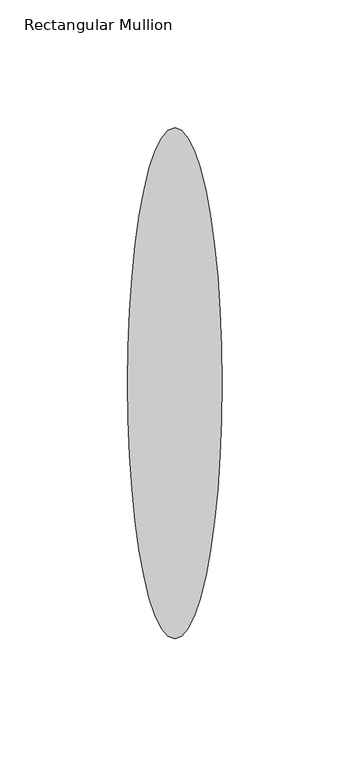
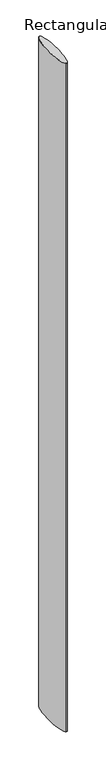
"""IFC4 building model written with IfcOpenShell, lengths in millimetres: member geometry, Rectangular Mullion : RSen_21_CWM_blade - 200 ellips - 0°_gen_duco projects."""

from ifc_helpers import new_model, si_unit, point, frame, origin, place, context, project, spatial, ellipse_curve, trimmed, source, transform, mapped, element, save
from ifc_brep_helpers import plane_surface, extruded_surface, advanced_brep


def rectangular_mullion_139a1767(model_context):
    return source(origin(), model_context, "Body", "AdvancedBrep", [
        advanced_brep(
        [(0.0, 13.0, 0.0), (0.0, 213.0, 0.0), (0.0, 13.0, -3000.0), (0.0, 213.0, -3000.0)],
        [
            (0, 1, ellipse_curve(frame((0.0, 113.0, 0.0), z_axis=(0.0, 0.0, 1.0), x_axis=(0.0, 1.0, 0.0)), 100.0, 18.5)),
            (1, 0, ellipse_curve(frame((0.0, 113.0, 0.0), z_axis=(0.0, 0.0, 1.0), x_axis=(0.0, 1.0, 0.0)), 100.0, 18.5)),
            (2, 3, ellipse_curve(frame((0.0, 113.0, -3000.0), z_axis=(0.0, 0.0, -1.0), x_axis=(0.0, 1.0, 0.0)), 100.0, 18.5)),
            (3, 2, ellipse_curve(frame((0.0, 113.0, -3000.0), z_axis=(0.0, 0.0, -1.0), x_axis=(0.0, 1.0, 0.0)), 100.0, 18.5)),
            (0, 2),
            (3, 1),
        ],
        [
            plane_surface(frame((0.0, -213.0, 0.0), z_axis=(0.0, 0.0, 1.0), x_axis=(-1.0, 0.0, 0.0))),
            plane_surface(frame((0.0, -213.0, -3000.0), z_axis=(0.0, 0.0, -1.0), x_axis=(-1.0, 0.0, 0.0))),
            extruded_surface(trimmed(ellipse_curve(frame((0.0, 113.0, -3000.0), z_axis=(0.0, 0.0, 1.0), x_axis=(0.0, 1.0, 0.0)), 100.0, 18.5), [point((0.0, 13.0, -3000.0))], [point((0.0, 213.0, -3000.0))], True, "CARTESIAN"), (0.0, 0.0, 3000.0), 3000.0),
            extruded_surface(trimmed(ellipse_curve(frame((0.0, 113.0, -3000.0), z_axis=(0.0, 0.0, 1.0), x_axis=(0.0, 1.0, 0.0)), 100.0, 18.5), [point((0.0, 213.0, -3000.0))], [point((0.0, 13.0, -3000.0))], True, "CARTESIAN"), (0.0, 0.0, 3000.0), 3000.0),
        ],
        [
            (0, [[1, 2]]),
            (1, [[3, 4]]),
            (2, [[-1, 5, -4, 6]]),
            (3, [[-2, -6, -3, -5]]),
        ],
    ),
    ])


if __name__ == "__main__":
    model = new_model("IFC4")
    model_context = context("Model", 3, world=origin())
    ifc_project = project(units=[si_unit("LENGTHUNIT", "METRE", prefix="MILLI")], contexts=[model_context])
    site = spatial("IfcSite", under=ifc_project)
    building = spatial("IfcBuilding", under=site)
    placement = place(None, origin())
    rectangular_mullion_shape = rectangular_mullion_139a1767(model_context)
    element("IfcMember", 1, ObjectType="Rectangular Mullion : RSen_21_CWM_blade - 200 ellips - 0°_gen_duco projects", at=placement, inside=building, context=model_context, shape_type="MappedRepresentation", body=[
        mapped(rectangular_mullion_shape, transform((0.0, 0.0, 0.0), x_axis=(1.0, 0.0, 0.0), y_axis=(0.0, 1.0, 0.0), z_axis=(0.0, 0.0, 1.0))),
    ])
    save(model, "model.ifc")
